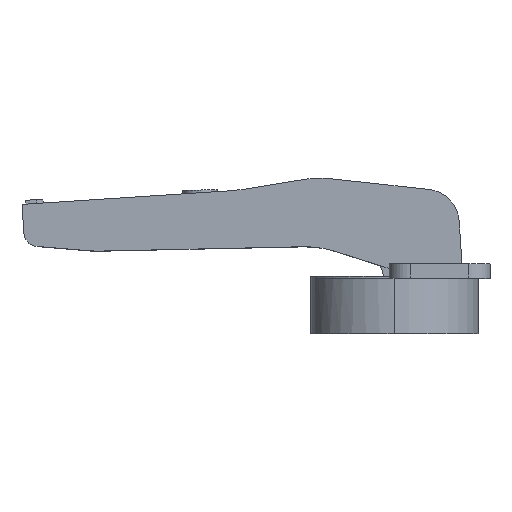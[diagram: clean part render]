
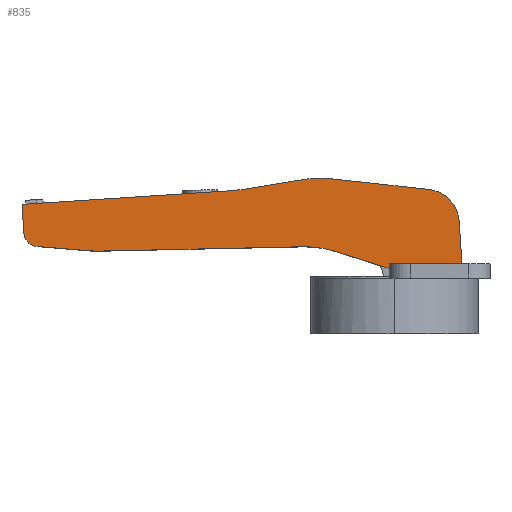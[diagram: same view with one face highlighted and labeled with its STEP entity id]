
A CAD part, top view. The second image highlights one B-rep face of the part: STEP entity #835.
In plain terms, the highlighted planar face has unit normal (0, 0, 1).
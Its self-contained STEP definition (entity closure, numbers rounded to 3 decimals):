
#3 = ORIENTED_EDGE ( 'NONE', *, *, #800, .T. ) ;
#36 = CARTESIAN_POINT ( 'NONE',  ( -60.722, 5.752, 8.6 ) ) ;
#42 = EDGE_CURVE ( 'NONE', #1924, #825, #1424, .T. ) ;
#73 = VECTOR ( 'NONE', #77, 1000. ) ;
#77 = DIRECTION ( 'NONE',  ( 1., 0.021, 0. ) ) ;
#80 = AXIS2_PLACEMENT_3D ( 'NONE', #1992, #1758, #2359 ) ;
#95 = CARTESIAN_POINT ( 'NONE',  ( -66.721, 6.088, 8.6 ) ) ;
#100 = LINE ( 'NONE', #857, #1106 ) ;
#130 = DIRECTION ( 'NONE',  ( -0.954, 0.3, 0. ) ) ;
#236 = CARTESIAN_POINT ( 'NONE',  ( -1.082, 3.1, 8.6 ) ) ;
#256 = DIRECTION ( 'NONE',  ( 1., 0.021, 0. ) ) ;
#285 = EDGE_CURVE ( 'NONE', #1709, #440, #2232, .T. ) ;
#299 = DIRECTION ( 'NONE',  ( -0.994, 0.109, 0. ) ) ;
#333 = EDGE_CURVE ( 'NONE', #1858, #1158, #2003, .T. ) ;
#336 = CARTESIAN_POINT ( 'NONE',  ( -30.765, 18.666, 8.6 ) ) ;
#352 = CARTESIAN_POINT ( 'NONE',  ( 6.495, 11.572, 8.6 ) ) ;
#365 = DIRECTION ( 'NONE',  ( 0., 0., 1. ) ) ;
#386 = LINE ( 'NONE', #980, #1720 ) ;
#408 = CARTESIAN_POINT ( 'NONE',  ( -18.898, 6.649, 8.6 ) ) ;
#434 = AXIS2_PLACEMENT_3D ( 'NONE', #1295, #1324, #2253 ) ;
#440 = VERTEX_POINT ( 'NONE', #2211 ) ;
#443 = CIRCLE ( 'NONE', #1744, 20. ) ;
#452 = EDGE_CURVE ( 'NONE', #2218, #1352, #1278, .T. ) ;
#486 = AXIS2_PLACEMENT_3D ( 'NONE', #352, #2279, #1851 ) ;
#501 = EDGE_CURVE ( 'NONE', #1741, #1822, #1864, .T. ) ;
#539 = ORIENTED_EDGE ( 'NONE', *, *, #2358, .F. ) ;
#549 = CARTESIAN_POINT ( 'NONE',  ( -15.398, 0.9, 8.6 ) ) ;
#553 = VECTOR ( 'NONE', #1191, 1000. ) ;
#568 = PLANE ( 'NONE',  #434 ) ;
#665 = CARTESIAN_POINT ( 'NONE',  ( 7.26, 18.53, 8.6 ) ) ;
#686 = CARTESIAN_POINT ( 'NONE',  ( -18.605, 20.641, 8.6 ) ) ;
#695 = VERTEX_POINT ( 'NONE', #686 ) ;
#700 = DIRECTION ( 'NONE',  ( -0.987, -0.16, 0. ) ) ;
#800 = EDGE_CURVE ( 'NONE', #2126, #1858, #1111, .T. ) ;
#801 = VERTEX_POINT ( 'NONE', #2076 ) ;
#804 = ORIENTED_EDGE ( 'NONE', *, *, #1526, .T. ) ;
#809 = CARTESIAN_POINT ( 'NONE',  ( -30.765, 18.666, 8.6 ) ) ;
#825 = VERTEX_POINT ( 'NONE', #1878 ) ;
#835 = ADVANCED_FACE ( 'NONE', ( #2035 ), #568, .T. ) ;
#843 = ORIENTED_EDGE ( 'NONE', *, *, #1800, .T. ) ;
#857 = CARTESIAN_POINT ( 'NONE',  ( -77.074, 12.054, 8.6 ) ) ;
#865 = EDGE_LOOP ( 'NONE', ( #2377, #1433, #934, #1036, #3, #1560, #2228, #1014, #804, #843, #539, #1082, #1743, #1845, #1099, #2271 ) ) ;
#890 = CIRCLE ( 'NONE', #2287, 40. ) ;
#934 = ORIENTED_EDGE ( 'NONE', *, *, #1147, .F. ) ;
#938 = VERTEX_POINT ( 'NONE', #809 ) ;
#980 = CARTESIAN_POINT ( 'NONE',  ( -77.296, 15.449, 8.6 ) ) ;
#1004 = VERTEX_POINT ( 'NONE', #1902 ) ;
#1014 = ORIENTED_EDGE ( 'NONE', *, *, #1575, .T. ) ;
#1036 = ORIENTED_EDGE ( 'NONE', *, *, #2391, .T. ) ;
#1046 = DIRECTION ( 'NONE',  ( -0.997, 0.083, 0. ) ) ;
#1066 = CARTESIAN_POINT ( 'NONE',  ( -1.082, 16.914, 8.6 ) ) ;
#1067 = LINE ( 'NONE', #1825, #1087 ) ;
#1068 = VECTOR ( 'NONE', #2221, 1000. ) ;
#1082 = ORIENTED_EDGE ( 'NONE', *, *, #42, .F. ) ;
#1087 = VECTOR ( 'NONE', #130, 1000. ) ;
#1099 = ORIENTED_EDGE ( 'NONE', *, *, #1920, .T. ) ;
#1106 = VECTOR ( 'NONE', #2000, 1000. ) ;
#1111 = CIRCLE ( 'NONE', #486, 7. ) ;
#1123 = EDGE_CURVE ( 'NONE', #1709, #1924, #1813, .T. ) ;
#1141 = DIRECTION ( 'NONE',  ( -0.998, -0.065, 0. ) ) ;
#1145 = VECTOR ( 'NONE', #1046, 1000. ) ;
#1147 = EDGE_CURVE ( 'NONE', #1727, #1352, #2164, .T. ) ;
#1158 = VERTEX_POINT ( 'NONE', #1395 ) ;
#1168 = CARTESIAN_POINT ( 'NONE',  ( 14.062, 3.1, 8.6 ) ) ;
#1191 = DIRECTION ( 'NONE',  ( -0.065, 0.998, 0. ) ) ;
#1205 = CARTESIAN_POINT ( 'NONE',  ( -74.164, 6.709, 8.6 ) ) ;
#1235 = DIRECTION ( 'NONE',  ( -1., 0., 0. ) ) ;
#1278 = LINE ( 'NONE', #1066, #1068 ) ;
#1295 = CARTESIAN_POINT ( 'NONE',  ( -2.502, 16.914, 8.6 ) ) ;
#1309 = AXIS2_PLACEMENT_3D ( 'NONE', #2123, #2355, #256 ) ;
#1324 = DIRECTION ( 'NONE',  ( 0., 0., 1. ) ) ;
#1352 = VERTEX_POINT ( 'NONE', #236 ) ;
#1395 = CARTESIAN_POINT ( 'NONE',  ( -13.213, 20.78, 8.6 ) ) ;
#1404 = CARTESIAN_POINT ( 'NONE',  ( -37.179, 58.148, 8.6 ) ) ;
#1424 = CIRCLE ( 'NONE', #1463, 3. ) ;
#1432 = DIRECTION ( 'NONE',  ( 0., 0., -1. ) ) ;
#1433 = ORIENTED_EDGE ( 'NONE', *, *, #452, .T. ) ;
#1463 = AXIS2_PLACEMENT_3D ( 'NONE', #1486, #2408, #1665 ) ;
#1486 = CARTESIAN_POINT ( 'NONE',  ( -73.915, 9.698, 8.6 ) ) ;
#1526 = EDGE_CURVE ( 'NONE', #938, #1004, #890, .T. ) ;
#1528 = CARTESIAN_POINT ( 'NONE',  ( -63.861, 5.849, 8.6 ) ) ;
#1560 = ORIENTED_EDGE ( 'NONE', *, *, #333, .T. ) ;
#1575 = EDGE_CURVE ( 'NONE', #695, #938, #2052, .T. ) ;
#1664 = EDGE_CURVE ( 'NONE', #2218, #1822, #1067, .T. ) ;
#1665 = DIRECTION ( 'NONE',  ( 1., 0.021, 0. ) ) ;
#1700 = CARTESIAN_POINT ( 'NONE',  ( -12.474, 5.734, 8.6 ) ) ;
#1709 = VERTEX_POINT ( 'NONE', #1528 ) ;
#1720 = VECTOR ( 'NONE', #1141, 1000. ) ;
#1722 = DIRECTION ( 'NONE',  ( 1., 0., 0. ) ) ;
#1724 = EDGE_CURVE ( 'NONE', #1158, #695, #443, .T. ) ;
#1727 = VERTEX_POINT ( 'NONE', #1168 ) ;
#1741 = VERTEX_POINT ( 'NONE', #408 ) ;
#1743 = ORIENTED_EDGE ( 'NONE', *, *, #1123, .F. ) ;
#1744 = AXIS2_PLACEMENT_3D ( 'NONE', #549, #365, #1722 ) ;
#1758 = DIRECTION ( 'NONE',  ( 0., 0., 1. ) ) ;
#1789 = CARTESIAN_POINT ( 'NONE',  ( 7.26, 18.53, 8.6 ) ) ;
#1800 = EDGE_CURVE ( 'NONE', #1004, #801, #386, .T. ) ;
#1811 = DIRECTION ( 'NONE',  ( 1., 0., 0. ) ) ;
#1813 = LINE ( 'NONE', #95, #1145 ) ;
#1822 = VERTEX_POINT ( 'NONE', #1700 ) ;
#1825 = CARTESIAN_POINT ( 'NONE',  ( -15.611, 6.719, 8.6 ) ) ;
#1845 = ORIENTED_EDGE ( 'NONE', *, *, #285, .T. ) ;
#1851 = DIRECTION ( 'NONE',  ( 1., 0., 0. ) ) ;
#1856 = VECTOR ( 'NONE', #299, 1000. ) ;
#1857 = VECTOR ( 'NONE', #1235, 1000. ) ;
#1858 = VERTEX_POINT ( 'NONE', #665 ) ;
#1864 = CIRCLE ( 'NONE', #1309, 20. ) ;
#1878 = CARTESIAN_POINT ( 'NONE',  ( -76.908, 9.503, 8.6 ) ) ;
#1902 = CARTESIAN_POINT ( 'NONE',  ( -34.578, 18.233, 8.6 ) ) ;
#1920 = EDGE_CURVE ( 'NONE', #440, #1741, #2322, .T. ) ;
#1924 = VERTEX_POINT ( 'NONE', #1205 ) ;
#1992 = CARTESIAN_POINT ( 'NONE',  ( -61.365, 35.745, 8.6 ) ) ;
#2000 = DIRECTION ( 'NONE',  ( -0.065, 0.998, 0. ) ) ;
#2003 = LINE ( 'NONE', #1789, #1856 ) ;
#2035 = FACE_OUTER_BOUND ( 'NONE', #865, .T. ) ;
#2052 = LINE ( 'NONE', #336, #2369 ) ;
#2076 = CARTESIAN_POINT ( 'NONE',  ( -77.296, 15.449, 8.6 ) ) ;
#2123 = CARTESIAN_POINT ( 'NONE',  ( -18.469, -13.347, 8.6 ) ) ;
#2126 = VERTEX_POINT ( 'NONE', #2156 ) ;
#2137 = CARTESIAN_POINT ( 'NONE',  ( 13.48, 12.028, 8.6 ) ) ;
#2156 = CARTESIAN_POINT ( 'NONE',  ( 13.48, 12.028, 8.6 ) ) ;
#2164 = LINE ( 'NONE', #2399, #1857 ) ;
#2167 = LINE ( 'NONE', #2137, #553 ) ;
#2193 = CARTESIAN_POINT ( 'NONE',  ( -1.082, 2.154, 8.6 ) ) ;
#2211 = CARTESIAN_POINT ( 'NONE',  ( -60.722, 5.752, 8.6 ) ) ;
#2218 = VERTEX_POINT ( 'NONE', #2193 ) ;
#2221 = DIRECTION ( 'NONE',  ( 0., 1., 0. ) ) ;
#2228 = ORIENTED_EDGE ( 'NONE', *, *, #1724, .T. ) ;
#2232 = CIRCLE ( 'NONE', #80, 30. ) ;
#2253 = DIRECTION ( 'NONE',  ( 1., 0.021, 0. ) ) ;
#2271 = ORIENTED_EDGE ( 'NONE', *, *, #501, .T. ) ;
#2279 = DIRECTION ( 'NONE',  ( 0., 0., 1. ) ) ;
#2287 = AXIS2_PLACEMENT_3D ( 'NONE', #1404, #1432, #1811 ) ;
#2322 = LINE ( 'NONE', #36, #73 ) ;
#2355 = DIRECTION ( 'NONE',  ( 0., 0., -1. ) ) ;
#2358 = EDGE_CURVE ( 'NONE', #825, #801, #100, .T. ) ;
#2359 = DIRECTION ( 'NONE',  ( 1., 0.021, 0. ) ) ;
#2369 = VECTOR ( 'NONE', #700, 1000. ) ;
#2377 = ORIENTED_EDGE ( 'NONE', *, *, #1664, .F. ) ;
#2391 = EDGE_CURVE ( 'NONE', #1727, #2126, #2167, .T. ) ;
#2399 = CARTESIAN_POINT ( 'NONE',  ( -2.502, 3.1, 8.6 ) ) ;
#2408 = DIRECTION ( 'NONE',  ( 0., 0., -1. ) ) ;
